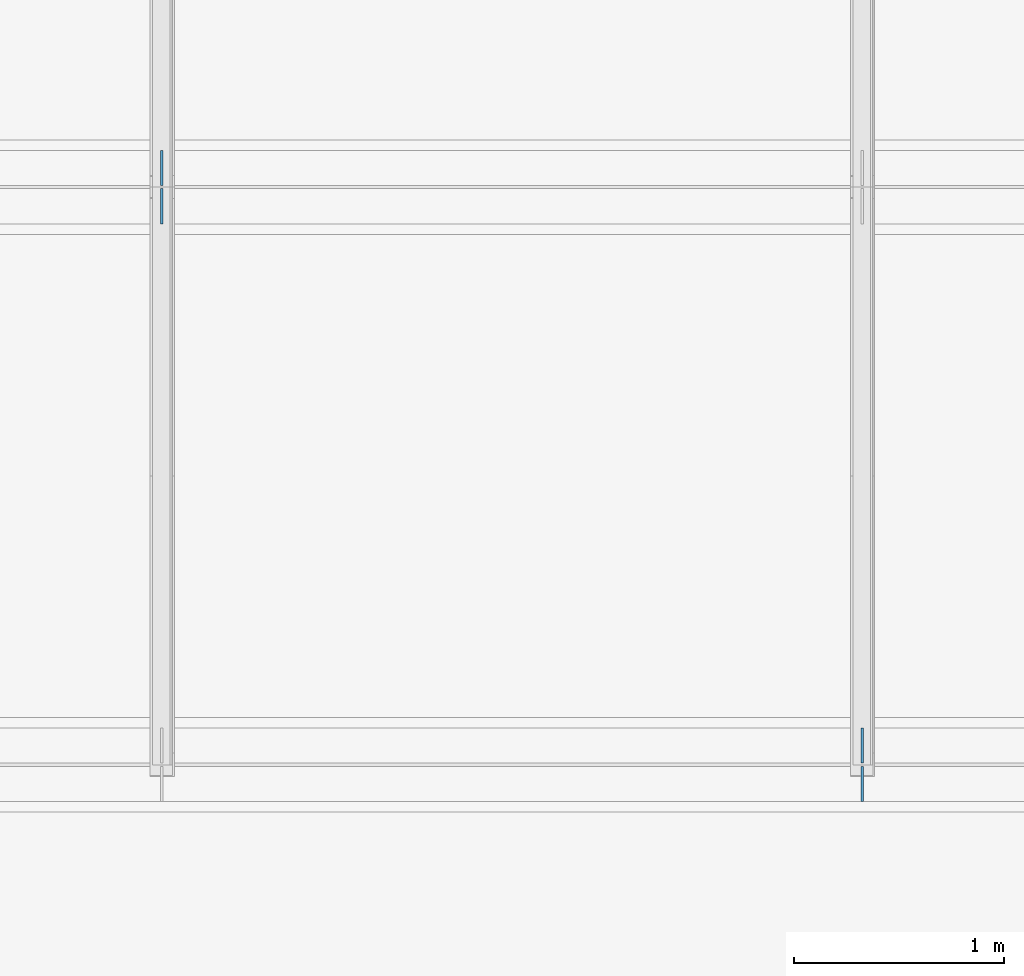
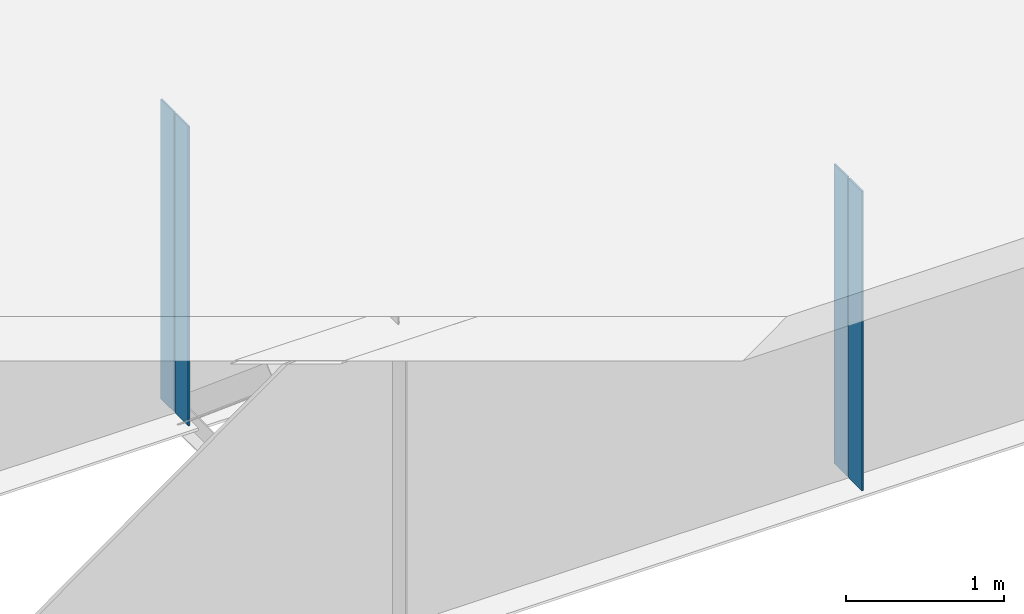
# One storey, part 7 of 19: 4 plates.
"""IFC4 building model written with IfcOpenShell, lengths in metres."""

import ifcopenshell
import ifcopenshell.guid

model = None  # the IFC model being written
_history = None  # IfcOwnerHistory: only IFC2X3 demands one
_inside = {}  # id of a spatial element -> (the spatial element, [elements in it])
_under = {}  # id of a project, library or spatial element -> (it, [spatial elements below it])
_declared = {}  # id of a project -> (the project, [libraries it declares])
_typed = {}  # id of a type object -> (the type object, [elements of that type])
_made_of = {}  # id of a material, layer set ... -> (it, [elements and type objects made of it])


def new_model(schema):
    """Start an empty IFC model of exactly this schema.

    Asked for "IFC4X3", IfcOpenShell would pick the latest addendum, in which some entities
    have other attributes; the version numbers below select the first issue.
    IFC2X3 requires an IfcOwnerHistory on every rooted entity: one is made here for all.
    """
    global model, _history
    if schema == "IFC4X3":
        model = ifcopenshell.file(schema_version=(4, 3, 0, 0))
    else:
        model = ifcopenshell.file(schema=schema)
    _inside.clear()
    _under.clear()
    _declared.clear()
    _typed.clear()
    _made_of.clear()
    _history = None
    if model.schema == "IFC2X3":
        org = make("IfcOrganization", Name="unknown")
        user = make(
            "IfcPersonAndOrganization",
            ThePerson=make("IfcPerson", FamilyName="unknown"),
            TheOrganization=org,
        )
        app = make(
            "IfcApplication",
            ApplicationDeveloper=org,
            Version="unknown",
            ApplicationFullName="unknown",
            ApplicationIdentifier="unknown",
        )
        _history = make(
            "IfcOwnerHistory",
            OwningUser=user,
            OwningApplication=app,
            ChangeAction="ADDED",
            CreationDate=0,
        )
    return model


def make(cls, **values):
    """One entity of the class cls with the attributes given. An attribute that is None is left unset."""
    return model.create_entity(
        cls, **{name: value for name, value in values.items() if value is not None}
    )


def rooted(cls, **values):
    """An entity with a GlobalId (a new one), such as an element, a storey or a relation."""
    return make(cls, GlobalId=ifcopenshell.guid.new(), OwnerHistory=_history, **values)


def si_unit(unit_type, name, prefix=None):
    """IfcSIUnit, for example si_unit("LENGTHUNIT", "METRE", prefix="MILLI")."""
    return make("IfcSIUnit", UnitType=unit_type, Prefix=prefix, Name=name)


def assignment(units):
    """IfcUnitAssignment: the units of a project."""
    return None if units is None else make("IfcUnitAssignment", Units=units)


def point(xyz):
    """IfcCartesianPoint."""
    return None if xyz is None else make("IfcCartesianPoint", Coordinates=xyz)


def direction(xyz):
    """IfcDirection."""
    return None if xyz is None else make("IfcDirection", DirectionRatios=xyz)


def frame(location, z_axis=None, x_axis=None):
    """IfcAxis2Placement3D, a coordinate frame: its origin and axes. An axis left out is left unset."""
    return make(
        "IfcAxis2Placement3D",
        Location=point(location),
        Axis=direction(z_axis),
        RefDirection=direction(x_axis),
    )


def frame_2d(location, x_axis=None):
    """IfcAxis2Placement2D, a coordinate frame in the plane: its origin and x axis."""
    return make(
        "IfcAxis2Placement2D", Location=point(location), RefDirection=direction(x_axis)
    )


def origin():
    """The frame at (0, 0, 0) with its axes left unset."""
    return frame((0.0, 0.0, 0.0))


def origin_with_axes():
    """The frame at (0, 0, 0) with the z axis (0, 0, 1) and the x axis (1, 0, 0) written out."""
    return frame((0.0, 0.0, 0.0), z_axis=(0.0, 0.0, 1.0), x_axis=(1.0, 0.0, 0.0))


def origin_2d_with_axis():
    """The frame at (0, 0) in the plane with the x axis (1, 0) written out."""
    return frame_2d((0.0, 0.0), x_axis=(1.0, 0.0))


def place(relative_to, where):
    """IfcLocalPlacement: puts the frame where relative to a parent placement (None: the world)."""
    return make(
        "IfcLocalPlacement", PlacementRelTo=relative_to, RelativePlacement=where
    )


def context(
    kind, dimensions, precision=None, world=None, true_north=None, identifier=None
):
    """IfcGeometricRepresentationContext, for example the 3D "Model" context."""
    return make(
        "IfcGeometricRepresentationContext",
        ContextIdentifier=identifier,
        ContextType=kind,
        CoordinateSpaceDimension=dimensions,
        Precision=precision,
        WorldCoordinateSystem=world,
        TrueNorth=true_north,
    )


def subcontext(parent, identifier, kind, view, scale=None):
    """IfcGeometricRepresentationSubContext, for example "Body" below "Model"."""
    return make(
        "IfcGeometricRepresentationSubContext",
        ContextIdentifier=identifier,
        ContextType=kind,
        ParentContext=parent,
        TargetScale=scale,
        TargetView=view,
    )


def project(units=None, contexts=None):
    """IfcProject with its units and contexts."""
    return rooted(
        "IfcProject",
        Name="project",
        RepresentationContexts=contexts,
        UnitsInContext=assignment(units),
    )


def spatial(cls, under=None, at=None, **own):
    """A site, building, storey or space (cls), placed at a placement, below another one or the project."""
    s = rooted(cls, ObjectPlacement=at, **own)
    if under is not None:
        _under.setdefault(under.id(), (under, []))[1].append(s)
    return s


def profile(cls, at=None, kind="AREA", **sizes):
    """A parametric profile (cls). Its sizes go by their IFC names, for example OverallWidth=200.0."""
    return make(cls, ProfileType=kind, Position=at, **sizes)


def rectangle(**sizes):
    """IfcRectangleProfileDef."""
    return profile("IfcRectangleProfileDef", **sizes)


def extrude(swept, where, along, depth):
    """IfcExtrudedAreaSolid: the profile swept, set in the frame where, extruded along a direction by depth."""
    return make(
        "IfcExtrudedAreaSolid",
        SweptArea=swept,
        Position=where,
        ExtrudedDirection=direction(along),
        Depth=depth,
    )


def shape(context_of_items, identifier, shape_type, items):
    """IfcShapeRepresentation: the items that make up one representation, for example the "Body"."""
    return make(
        "IfcShapeRepresentation",
        ContextOfItems=context_of_items,
        RepresentationIdentifier=identifier,
        RepresentationType=shape_type,
        Items=items,
    )


def made_of(thing, what):
    """Note that an element or type object is made of a material, layer set ...; save() writes the relation."""
    if what is not None:
        _made_of.setdefault(what.id(), (what, []))[1].append(thing)
    return thing


def element(
    cls,
    number,
    at=None,
    inside=None,
    cuts=None,
    type_object=None,
    material=None,
    context=None,
    identifier="Body",
    shape_type=None,
    held_by="IfcProductDefinitionShape",
    body=None,
    shapes=None,
    **own,
):
    """One element of the class cls, such as IfcWall. Its Tag is "e" and its number.

    at: its placement. inside: the storey or other place that contains it. cuts: it is an
    opening in that element (IfcRelVoidsElement). A single representation is given by context,
    identifier, shape_type and body (its items); several are given by shapes. held_by: the class
    of the entity that holds the representations. save() writes the other relations.
    """
    e = rooted(cls, Tag="e%d" % number, ObjectPlacement=at, **own)
    if body is not None:
        shapes = [shape(context, identifier, shape_type, body)]
    if shapes is not None:
        e.Representation = make(held_by, Representations=shapes)
    if inside is not None:
        _inside.setdefault(inside.id(), (inside, []))[1].append(e)
    if cuts is not None:
        rooted(
            "IfcRelVoidsElement", RelatingBuildingElement=cuts, RelatedOpeningElement=e
        )
    if type_object is not None:
        _typed.setdefault(type_object.id(), (type_object, []))[1].append(e)
    return made_of(e, material)


def aggregate(whole, parts):
    """IfcRelAggregates: a whole, such as a stair, and the parts it consists of."""
    return rooted("IfcRelAggregates", RelatingObject=whole, RelatedObjects=parts)


def save(model, path):
    """Write the relations noted so far, then the file.

    IfcRelAggregates (storeys below a building ...), IfcRelContainedInSpatialStructure (elements
    in a storey), IfcRelDefinesByType, IfcRelAssociatesMaterial and IfcRelDeclares: one each for
    every whole, place, type object, material and project.
    """
    for whole, parts in _under.values():
        aggregate(whole, parts)
    for where, things in _inside.values():
        rooted(
            "IfcRelContainedInSpatialStructure",
            RelatedElements=things,
            RelatingStructure=where,
        )
    for kind, things in _typed.values():
        rooted("IfcRelDefinesByType", RelatedObjects=things, RelatingType=kind)
    for what, things in _made_of.values():
        rooted("IfcRelAssociatesMaterial", RelatedObjects=things, RelatingMaterial=what)
    for by, libraries in _declared.values():
        rooted("IfcRelDeclares", RelatingContext=by, RelatedDefinitions=libraries)
    model.write(path)


model = new_model("IFC4")

# Units and contexts
model_context = context("Model", 3, precision=1e-05, world=origin())
body_context = subcontext(model_context, "Body", "Model", "MODEL_VIEW")
ifc_project = project(units=[si_unit("LENGTHUNIT", "METRE"), si_unit("AREAUNIT", "SQUARE_METRE"), si_unit("VOLUMEUNIT", "CUBIC_METRE"), si_unit("PLANEANGLEUNIT", "RADIAN")], contexts=[model_context])

# Site, building, storey
site_placement = place(None, origin_with_axes())
site = spatial("IfcSite", under=ifc_project, at=site_placement, Name="Default Site")
building_placement = place(site_placement, origin_with_axes())
building = spatial("IfcBuilding", under=site, at=building_placement, Name="Bridge Structure")
storey_placement = place(building_placement, origin_with_axes())
storey = spatial("IfcBuildingStorey", under=building, at=storey_placement, Name="Superstructure")

# Plates
for number, where, z_axis, x_axis, name in (
    (1, (19.998, -5.4085, -1.157), (0.0, 0.0, 1.0), (1.0, 0.0, 0.0), "Intermediate Stiffener 1"),
    (2, (19.998, -5.5915, -1.157), (0.0, 0.0, 1.0), (1.0, 0.0, 0.0), "Intermediate Stiffener 1"),
    (3, (16.665, -2.6585, -1.157), (0.0, 0.0, 1.0), (1.0, 0.0, 0.0), "Intermediate Stiffener 2"),
    (4, (16.665, -2.8415, -1.157), (0.0, 0.0, 1.0), (1.0, 0.0, 0.0), "Intermediate Stiffener 2"),
):
    element("IfcPlate", number, at=place(storey_placement, frame(where, z_axis=z_axis, x_axis=x_axis)), inside=storey, Name=name, context=body_context, shape_type="SweptSolid", body=[
        extrude(rectangle(XDim=0.012, YDim=0.167, at=origin_2d_with_axis()), origin_with_axes(), (0.0, 0.0, 1.0), 2.314),
    ])

save(model, "model.ifc")
